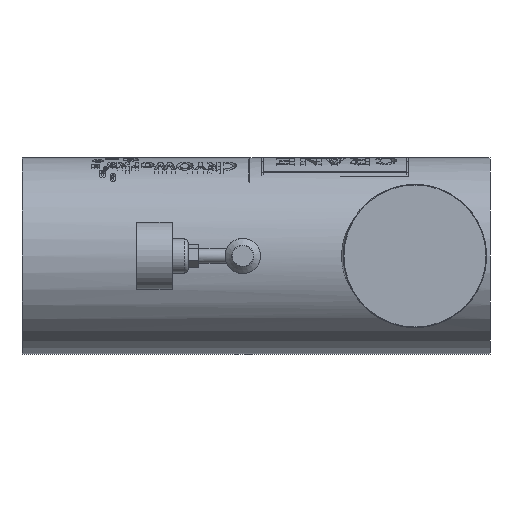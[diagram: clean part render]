
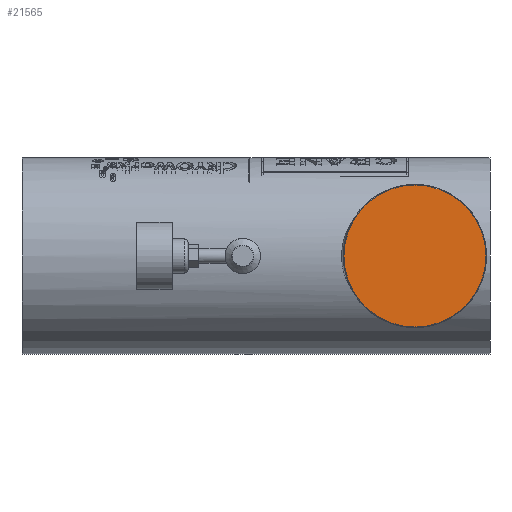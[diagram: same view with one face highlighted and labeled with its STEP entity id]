
A CAD part, left-side view. The second image highlights one B-rep face of the part: STEP entity #21565.
In plain terms, the highlighted planar face has unit normal (-1, -0.018, 0).
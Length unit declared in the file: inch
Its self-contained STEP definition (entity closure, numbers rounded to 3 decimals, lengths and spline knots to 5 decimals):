
#3400 = DIRECTION ( 'NONE',  ( 0., 0., -1. ) ) ;
#6219 = AXIS2_PLACEMENT_3D ( 'NONE', #23021, #20991, #27483 ) ;
#6468 = CIRCLE ( 'NONE', #16609, 2.011 ) ;
#7534 = PLANE ( 'NONE',  #6219 ) ;
#11773 = CARTESIAN_POINT ( 'NONE',  ( 0., 0., 0. ) ) ;
#15100 = CARTESIAN_POINT ( 'NONE',  ( 0., 0., -2.011 ) ) ;
#15782 = EDGE_LOOP ( 'NONE', ( #21822 ) ) ;
#15884 = EDGE_CURVE ( 'NONE', #17701, #17701, #6468, .T. ) ;
#16609 = AXIS2_PLACEMENT_3D ( 'NONE', #11773, #27121, #3400 ) ;
#17701 = VERTEX_POINT ( 'NONE', #15100 ) ;
#20991 = DIRECTION ( 'NONE',  ( -1., -0.017, 0. ) ) ;
#21565 = ADVANCED_FACE ( 'NONE', ( #25181 ), #7534, .T. ) ;
#21822 = ORIENTED_EDGE ( 'NONE', *, *, #15884, .T. ) ;
#23021 = CARTESIAN_POINT ( 'NONE',  ( 0.03545, -2.03069, 0. ) ) ;
#25181 = FACE_OUTER_BOUND ( 'NONE', #15782, .T. ) ;
#27121 = DIRECTION ( 'NONE',  ( -1., -0.017, 0. ) ) ;
#27483 = DIRECTION ( 'NONE',  ( 0., 0., -1. ) ) ;
